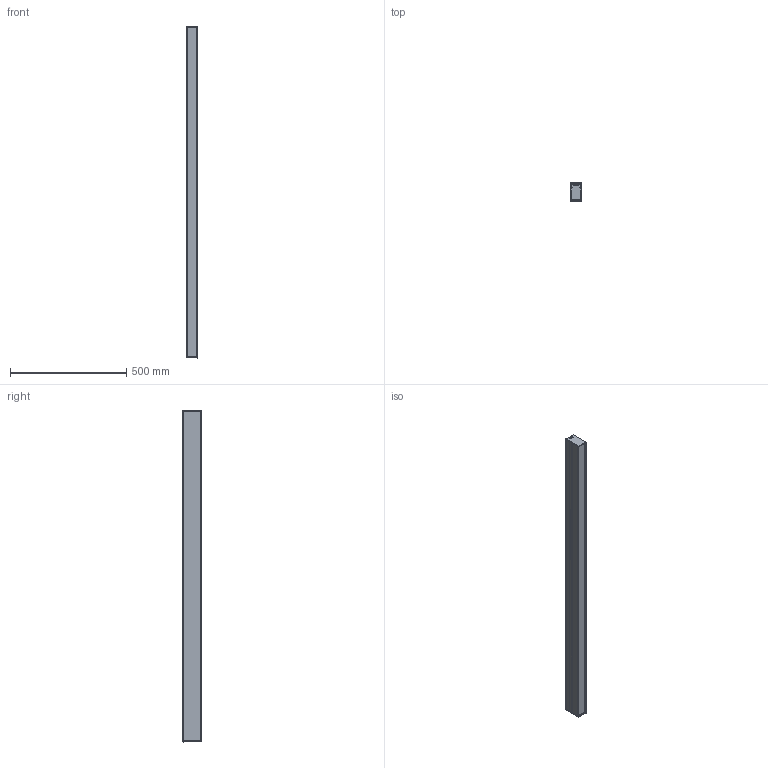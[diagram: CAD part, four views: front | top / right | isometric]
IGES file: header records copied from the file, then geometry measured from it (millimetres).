
Start section: SolidWorks IGES file using analytic representation for surfaces
Global section: file name: C:\Users\JoãoSantos\Desktop\02_3D.2D\01_2020\02_Linear\05_U45\03_Ceiling\U45_SURFACE_1429.IGS; native system: SolidWorks 2020; preprocessor: SolidWorks 2020; author: JoãoSantos; date: 201021.120827; units: millimetre
Bounding box: 45 x 77.5 x 1429 mm (x, y, z)
Surface area: 870910.8 mm2 (no closed solid volume)
Topology: 0 solids, 0 shells, 350 faces, 2492 edges, 2476 vertices
Faces by surface type: bspline 224, revolution 126
